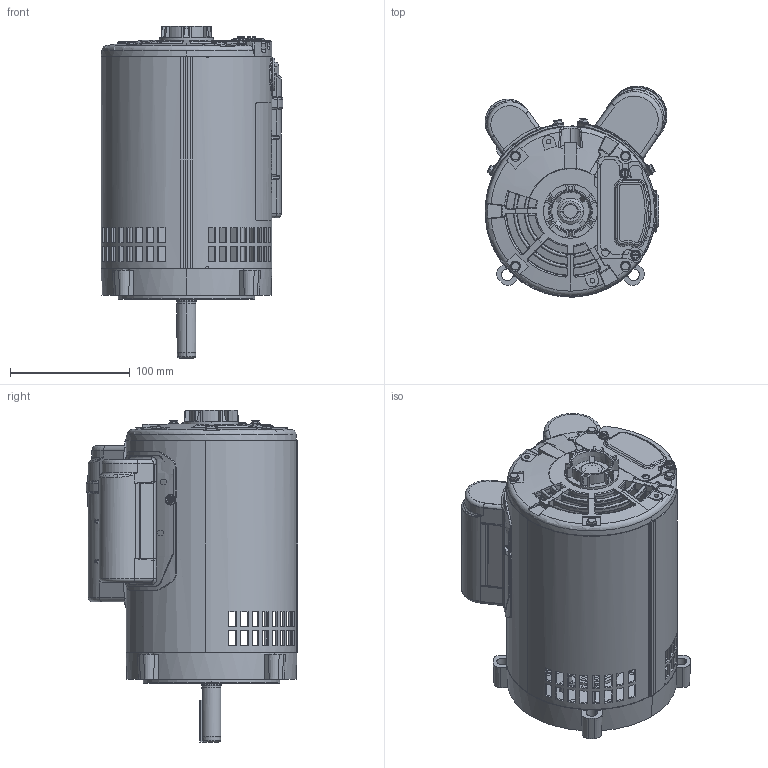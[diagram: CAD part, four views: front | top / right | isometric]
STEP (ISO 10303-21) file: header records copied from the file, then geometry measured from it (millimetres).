
FILE_DESCRIPTION (( 'STEP AP203' ), '1' );
FILE_NAME ('SS404346-700_RevA.STEP', '2018-11-13T12:41:44', ( '' ), ( '' ), 'SwSTEP 2.0', 'SolidWorks 2015', '' );
FILE_SCHEMA (( 'CONFIG_CONTROL_DESIGN' ));
Products named in the file (1): SS404346-700_RevA
Bounding box: 152.09 x 176.79 x 277.66 mm (x, y, z)
Volume: 461143.6 mm3; surface area: 444709 mm2
Topology: 26 solids, 26 shells, 3259 faces, 8471 edges, 5284 vertices
Faces by surface type: plane 1300, cylinder 658, bspline 578, cone 429, torus 282, sphere 12
Entity records: 129486 total; most frequent: CARTESIAN_POINT 54940, ORIENTED_EDGE 16834, DIRECTION 14127, EDGE_CURVE 8417, AXIS2_PLACEMENT_3D 5567, VERTEX_POINT 5276, EDGE_LOOP 3473, FACE_OUTER_BOUND 3259
